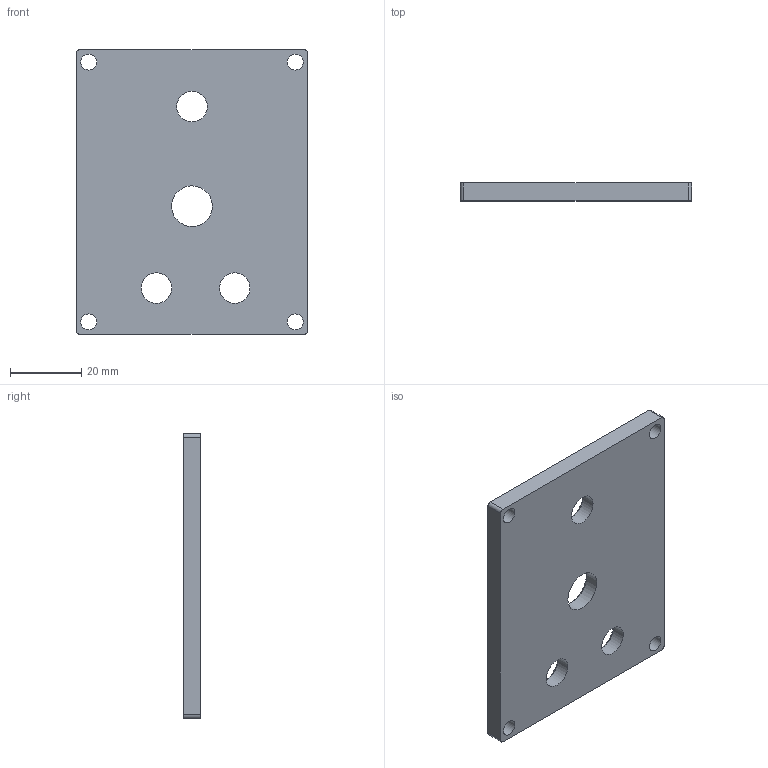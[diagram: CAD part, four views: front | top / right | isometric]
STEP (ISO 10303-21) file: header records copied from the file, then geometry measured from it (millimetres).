
FILE_DESCRIPTION(('STEP AP203'), '1');
FILE_NAME('蚁显1801.01.07.02.009 - 署赅 耋狎囗赅', '', ('UNSPECIFIED'), ('UNSPECIFIED'), 'C3D Converter', 'C3D Toolkit', '');
FILE_SCHEMA(('CONFIG_CONTROL_DESIGN'));
Length unit declared in the file: millimetre
Products named in the file (1): ТППФ1801.01.07.02.009
Bounding box: 65 x 5 x 80 mm (x, y, z)
Volume: 24236.2 mm3; surface area: 11964 mm2
Topology: 1 solids, 1 shells, 22 faces, 56 edges, 36 vertices
Faces by surface type: cylinder 12, plane 6, cone 4
Full cylindrical faces by diameter (mm): 4.5 x4, 8.566 x3, 11.445 x1
Entity records: 864 total; most frequent: DIRECTION 118, CARTESIAN_POINT 103, ORIENTED_EDGE 88, AXIS2_PLACEMENT_3D 51, EDGE_LOOP 50, EDGE_CURVE 44, VERTEX_POINT 36, CIRCLE 28
